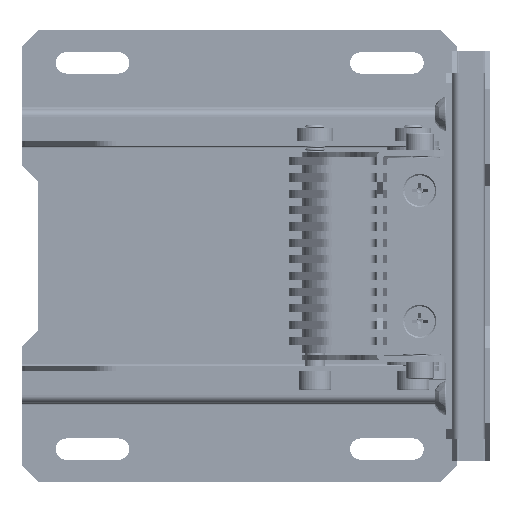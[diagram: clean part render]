
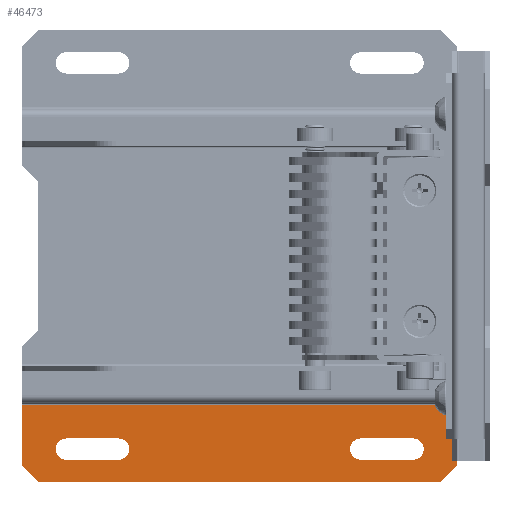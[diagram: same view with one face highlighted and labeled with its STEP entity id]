
A CAD part, front view. The second image highlights one B-rep face of the part: STEP entity #46473.
In plain terms, the highlighted planar face has unit normal (0, -1, 0).
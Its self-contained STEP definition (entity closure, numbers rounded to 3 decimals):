
#22 = CARTESIAN_POINT ( 'NONE',  ( 62.25, 10., 0. ) ) ;
#225 = CARTESIAN_POINT ( 'NONE',  ( 62.25, 10., 37. ) ) ;
#828 = VECTOR ( 'NONE', #22581, 1000. ) ;
#848 = EDGE_CURVE ( 'NONE', #21861, #30757, #19417, .T. ) ;
#1040 = CARTESIAN_POINT ( 'NONE',  ( 64., 10., 66.5 ) ) ;
#1212 = VECTOR ( 'NONE', #15810, 1000. ) ;
#1357 = LINE ( 'NONE', #22, #828 ) ;
#1808 = LINE ( 'NONE', #8296, #16486 ) ;
#2060 = EDGE_CURVE ( 'NONE', #36855, #19194, #4929, .T. ) ;
#2331 = ORIENTED_EDGE ( 'NONE', *, *, #848, .F. ) ;
#3164 = EDGE_CURVE ( 'NONE', #17585, #41635, #31914, .T. ) ;
#4172 = CARTESIAN_POINT ( 'NONE',  ( 65.25, 10., -65.25 ) ) ;
#4750 = CARTESIAN_POINT ( 'NONE',  ( 62.25, 10., -53. ) ) ;
#4929 = LINE ( 'NONE', #4172, #16801 ) ;
#4938 = EDGE_CURVE ( 'NONE', #23409, #42438, #1808, .T. ) ;
#5677 = PLANE ( 'NONE',  #20447 ) ;
#5983 = ORIENTED_EDGE ( 'NONE', *, *, #43193, .F. ) ;
#7082 = CARTESIAN_POINT ( 'NONE',  ( 55.75, 10., -37. ) ) ;
#7095 = DIRECTION ( 'NONE',  ( 0., -1., 0. ) ) ;
#7135 = ORIENTED_EDGE ( 'NONE', *, *, #36277, .F. ) ;
#8296 = CARTESIAN_POINT ( 'NONE',  ( 55.75, 10., 0. ) ) ;
#8663 = DIRECTION ( 'NONE',  ( 0., 0., -1. ) ) ;
#8771 = AXIS2_PLACEMENT_3D ( 'NONE', #26099, #22487, #29404 ) ;
#9372 = CARTESIAN_POINT ( 'NONE',  ( 59., 10., 37. ) ) ;
#9509 = FACE_OUTER_BOUND ( 'NONE', #12096, .T. ) ;
#9868 = ORIENTED_EDGE ( 'NONE', *, *, #30638, .F. ) ;
#10646 = FACE_BOUND ( 'NONE', #26957, .T. ) ;
#10770 = CARTESIAN_POINT ( 'NONE',  ( 62.25, 10., 0. ) ) ;
#10812 = LINE ( 'NONE', #37265, #1212 ) ;
#10901 = CARTESIAN_POINT ( 'NONE',  ( 64., 10., -66.5 ) ) ;
#11718 = AXIS2_PLACEMENT_3D ( 'NONE', #13892, #7095, #42933 ) ;
#11859 = LINE ( 'NONE', #12771, #16377 ) ;
#12096 = EDGE_LOOP ( 'NONE', ( #14349, #39848, #17061, #42916, #41180, #15127 ) ) ;
#12466 = CARTESIAN_POINT ( 'NONE',  ( 55.75, 10., 37. ) ) ;
#12771 = CARTESIAN_POINT ( 'NONE',  ( 65.25, 10., 65.25 ) ) ;
#13066 = CARTESIAN_POINT ( 'NONE',  ( 55.75, 10., 53. ) ) ;
#13653 = LINE ( 'NONE', #15170, #26052 ) ;
#13892 = CARTESIAN_POINT ( 'NONE',  ( 59., 10., -37. ) ) ;
#14349 = ORIENTED_EDGE ( 'NONE', *, *, #44032, .F. ) ;
#14958 = VERTEX_POINT ( 'NONE', #36210 ) ;
#15127 = ORIENTED_EDGE ( 'NONE', *, *, #2060, .T. ) ;
#15170 = CARTESIAN_POINT ( 'NONE',  ( 69., 10., -66.5 ) ) ;
#15810 = DIRECTION ( 'NONE',  ( 0., 0., -1. ) ) ;
#15824 = CARTESIAN_POINT ( 'NONE',  ( 69., 10., 61.5 ) ) ;
#16258 = EDGE_CURVE ( 'NONE', #17445, #23409, #31044, .T. ) ;
#16377 = VECTOR ( 'NONE', #45259, 1000. ) ;
#16416 = DIRECTION ( 'NONE',  ( 0., -1., 0. ) ) ;
#16486 = VECTOR ( 'NONE', #26296, 1000. ) ;
#16730 = EDGE_CURVE ( 'NONE', #27372, #14958, #20282, .T. ) ;
#16801 = VECTOR ( 'NONE', #25642, 1000. ) ;
#17061 = ORIENTED_EDGE ( 'NONE', *, *, #17446, .F. ) ;
#17445 = VERTEX_POINT ( 'NONE', #28259 ) ;
#17446 = EDGE_CURVE ( 'NONE', #14958, #19765, #19122, .T. ) ;
#17585 = VERTEX_POINT ( 'NONE', #39625 ) ;
#17817 = VECTOR ( 'NONE', #36028, 1000. ) ;
#18139 = CARTESIAN_POINT ( 'NONE',  ( 55.75, 10., -53. ) ) ;
#18309 = DIRECTION ( 'NONE',  ( 0., 0., -1. ) ) ;
#19122 = LINE ( 'NONE', #35244, #20720 ) ;
#19194 = VERTEX_POINT ( 'NONE', #28996 ) ;
#19417 = CIRCLE ( 'NONE', #34949, 3.25 ) ;
#19765 = VERTEX_POINT ( 'NONE', #1040 ) ;
#20282 = LINE ( 'NONE', #40243, #40568 ) ;
#20408 = ORIENTED_EDGE ( 'NONE', *, *, #3164, .F. ) ;
#20447 = AXIS2_PLACEMENT_3D ( 'NONE', #38021, #16416, #8663 ) ;
#20709 = ORIENTED_EDGE ( 'NONE', *, *, #16258, .F. ) ;
#20720 = VECTOR ( 'NONE', #42623, 1000. ) ;
#21861 = VERTEX_POINT ( 'NONE', #18139 ) ;
#22091 = LINE ( 'NONE', #27119, #42946 ) ;
#22487 = DIRECTION ( 'NONE',  ( 0., -1., 0. ) ) ;
#22581 = DIRECTION ( 'NONE',  ( 0., 0., 1. ) ) ;
#23409 = VERTEX_POINT ( 'NONE', #13066 ) ;
#24567 = CARTESIAN_POINT ( 'NONE',  ( 59., 10., -53. ) ) ;
#25642 = DIRECTION ( 'NONE',  ( 0.707, 0., 0.707 ) ) ;
#25803 = EDGE_CURVE ( 'NONE', #30757, #17585, #1357, .T. ) ;
#25912 = FACE_BOUND ( 'NONE', #26102, .T. ) ;
#26052 = VECTOR ( 'NONE', #18309, 1000. ) ;
#26099 = CARTESIAN_POINT ( 'NONE',  ( 59., 10., 53. ) ) ;
#26102 = EDGE_LOOP ( 'NONE', ( #2331, #9868, #20408, #37576 ) ) ;
#26296 = DIRECTION ( 'NONE',  ( 0., 0., -1. ) ) ;
#26957 = EDGE_LOOP ( 'NONE', ( #20709, #7135, #5983, #34408 ) ) ;
#27119 = CARTESIAN_POINT ( 'NONE',  ( 45., 10., -66.5 ) ) ;
#27372 = VERTEX_POINT ( 'NONE', #40325 ) ;
#27418 = DIRECTION ( 'NONE',  ( -1., 0., 0. ) ) ;
#28259 = CARTESIAN_POINT ( 'NONE',  ( 62.25, 10., 53. ) ) ;
#28996 = CARTESIAN_POINT ( 'NONE',  ( 69., 10., -61.5 ) ) ;
#29204 = DIRECTION ( 'NONE',  ( 0., 0., 1. ) ) ;
#29404 = DIRECTION ( 'NONE',  ( 0., 0., -1. ) ) ;
#29484 = CIRCLE ( 'NONE', #45794, 3.25 ) ;
#30638 = EDGE_CURVE ( 'NONE', #41635, #21861, #10812, .T. ) ;
#30757 = VERTEX_POINT ( 'NONE', #4750 ) ;
#31044 = CIRCLE ( 'NONE', #8771, 3.25 ) ;
#31364 = DIRECTION ( 'NONE',  ( 0., -1., 0. ) ) ;
#31914 = CIRCLE ( 'NONE', #11718, 3.25 ) ;
#34299 = EDGE_CURVE ( 'NONE', #36521, #19765, #11859, .T. ) ;
#34408 = ORIENTED_EDGE ( 'NONE', *, *, #4938, .F. ) ;
#34949 = AXIS2_PLACEMENT_3D ( 'NONE', #24567, #31364, #39226 ) ;
#34962 = DIRECTION ( 'NONE',  ( 0., 0., -1. ) ) ;
#35244 = CARTESIAN_POINT ( 'NONE',  ( 69., 10., 66.5 ) ) ;
#36028 = DIRECTION ( 'NONE',  ( 0., 0., 1. ) ) ;
#36210 = CARTESIAN_POINT ( 'NONE',  ( 45.5, 10., 66.5 ) ) ;
#36277 = EDGE_CURVE ( 'NONE', #44549, #17445, #42053, .T. ) ;
#36521 = VERTEX_POINT ( 'NONE', #15824 ) ;
#36855 = VERTEX_POINT ( 'NONE', #10901 ) ;
#37265 = CARTESIAN_POINT ( 'NONE',  ( 55.75, 10., 0. ) ) ;
#37576 = ORIENTED_EDGE ( 'NONE', *, *, #25803, .F. ) ;
#38021 = CARTESIAN_POINT ( 'NONE',  ( 0., 10., 0. ) ) ;
#38875 = DIRECTION ( 'NONE',  ( 0., -1., 0. ) ) ;
#39226 = DIRECTION ( 'NONE',  ( 0., 0., -1. ) ) ;
#39625 = CARTESIAN_POINT ( 'NONE',  ( 62.25, 10., -37. ) ) ;
#39848 = ORIENTED_EDGE ( 'NONE', *, *, #34299, .T. ) ;
#40243 = CARTESIAN_POINT ( 'NONE',  ( 45.5, 10., -66.5 ) ) ;
#40325 = CARTESIAN_POINT ( 'NONE',  ( 45.5, 10., -66.5 ) ) ;
#40568 = VECTOR ( 'NONE', #29204, 1000. ) ;
#41180 = ORIENTED_EDGE ( 'NONE', *, *, #44294, .F. ) ;
#41635 = VERTEX_POINT ( 'NONE', #7082 ) ;
#42053 = LINE ( 'NONE', #10770, #17817 ) ;
#42438 = VERTEX_POINT ( 'NONE', #12466 ) ;
#42623 = DIRECTION ( 'NONE',  ( 1., 0., 0. ) ) ;
#42916 = ORIENTED_EDGE ( 'NONE', *, *, #16730, .F. ) ;
#42933 = DIRECTION ( 'NONE',  ( 0., 0., -1. ) ) ;
#42946 = VECTOR ( 'NONE', #27418, 1000. ) ;
#43193 = EDGE_CURVE ( 'NONE', #42438, #44549, #29484, .T. ) ;
#44032 = EDGE_CURVE ( 'NONE', #36521, #19194, #13653, .T. ) ;
#44294 = EDGE_CURVE ( 'NONE', #36855, #27372, #22091, .T. ) ;
#44549 = VERTEX_POINT ( 'NONE', #225 ) ;
#45259 = DIRECTION ( 'NONE',  ( -0.707, 0., 0.707 ) ) ;
#45794 = AXIS2_PLACEMENT_3D ( 'NONE', #9372, #38875, #34962 ) ;
#46473 = ADVANCED_FACE ( 'NONE', ( #10646, #25912, #9509 ), #5677, .T. ) ;
